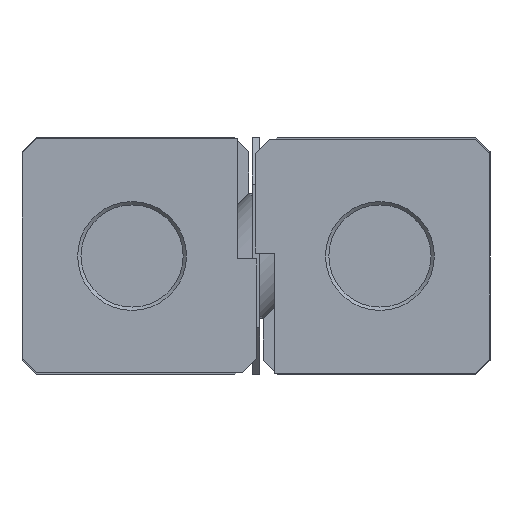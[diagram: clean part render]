
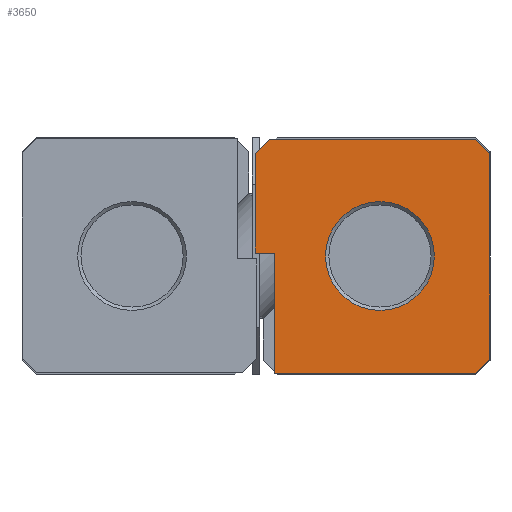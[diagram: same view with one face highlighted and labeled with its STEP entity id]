
A CAD part, left-side view. The second image highlights one B-rep face of the part: STEP entity #3650.
In plain terms, the highlighted planar face has unit normal (-1, 0, 0).
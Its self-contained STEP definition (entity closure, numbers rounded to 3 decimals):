
#126=CIRCLE('',#3908,8.25);
#338=ORIENTED_EDGE('',*,*,#1276,.T.);
#339=ORIENTED_EDGE('',*,*,#1258,.F.);
#340=ORIENTED_EDGE('',*,*,#1275,.F.);
#341=ORIENTED_EDGE('',*,*,#1273,.F.);
#342=ORIENTED_EDGE('',*,*,#1271,.F.);
#343=ORIENTED_EDGE('',*,*,#1269,.F.);
#344=ORIENTED_EDGE('',*,*,#1267,.F.);
#345=ORIENTED_EDGE('',*,*,#1265,.F.);
#346=ORIENTED_EDGE('',*,*,#1263,.F.);
#347=ORIENTED_EDGE('',*,*,#1261,.F.);
#1258=EDGE_CURVE('',#1739,#1740,#2102,.T.);
#1261=EDGE_CURVE('',#1740,#1741,#2105,.T.);
#1263=EDGE_CURVE('',#1741,#1742,#2107,.T.);
#1265=EDGE_CURVE('',#1742,#1743,#2109,.T.);
#1267=EDGE_CURVE('',#1743,#1744,#2111,.T.);
#1269=EDGE_CURVE('',#1744,#1745,#2113,.T.);
#1271=EDGE_CURVE('',#1745,#1746,#2115,.T.);
#1273=EDGE_CURVE('',#1746,#1747,#2117,.T.);
#1275=EDGE_CURVE('',#1747,#1739,#2119,.T.);
#1276=EDGE_CURVE('',#1748,#1748,#126,.T.);
#1739=VERTEX_POINT('',#5377);
#1740=VERTEX_POINT('',#5378);
#1741=VERTEX_POINT('',#5383);
#1742=VERTEX_POINT('',#5387);
#1743=VERTEX_POINT('',#5391);
#1744=VERTEX_POINT('',#5395);
#1745=VERTEX_POINT('',#5399);
#1746=VERTEX_POINT('',#5403);
#1747=VERTEX_POINT('',#5407);
#1748=VERTEX_POINT('',#5413);
#2102=LINE('',#5376,#2492);
#2105=LINE('',#5382,#2495);
#2107=LINE('',#5386,#2497);
#2109=LINE('',#5390,#2499);
#2111=LINE('',#5394,#2501);
#2113=LINE('',#5398,#2503);
#2115=LINE('',#5402,#2505);
#2117=LINE('',#5406,#2507);
#2119=LINE('',#5410,#2509);
#2492=VECTOR('',#4310,1000.);
#2495=VECTOR('',#4315,1000.);
#2497=VECTOR('',#4319,1000.);
#2499=VECTOR('',#4323,1000.);
#2501=VECTOR('',#4327,1000.);
#2503=VECTOR('',#4331,1000.);
#2505=VECTOR('',#4335,1000.);
#2507=VECTOR('',#4339,1000.);
#2509=VECTOR('',#4343,1000.);
#2854=EDGE_LOOP('',(#338));
#2855=EDGE_LOOP('',(#339,#340,#341,#342,#343,#344,#345,#346,#347));
#3174=FACE_BOUND('',#2854,.T.);
#3175=FACE_BOUND('',#2855,.T.);
#3488=PLANE('',#3907);
#3650=ADVANCED_FACE('',(#3174,#3175),#3488,.F.);
#3907=AXIS2_PLACEMENT_3D('',#5411,#4344,#4345);
#3908=AXIS2_PLACEMENT_3D('',#5412,#4346,#4347);
#4310=DIRECTION('',(0.,-1.,0.));
#4315=DIRECTION('',(0.,-0.707,-0.707));
#4319=DIRECTION('',(0.,0.,-1.));
#4323=DIRECTION('',(0.,0.707,-0.707));
#4327=DIRECTION('',(0.,1.,0.));
#4331=DIRECTION('',(0.,0.,1.));
#4335=DIRECTION('',(0.,1.,0.));
#4339=DIRECTION('',(0.,0.,1.));
#4343=DIRECTION('',(0.,-0.707,0.707));
#4344=DIRECTION('',(1.,0.,0.));
#4345=DIRECTION('',(0.,0.,-1.));
#4346=DIRECTION('',(1.,0.,0.));
#4347=DIRECTION('',(0.,0.,-1.));
#5376=CARTESIAN_POINT('',(0.,-1.98,17.7));
#5377=CARTESIAN_POINT('',(0.,-1.98,17.7));
#5378=CARTESIAN_POINT('',(0.,-33.32,17.7));
#5382=CARTESIAN_POINT('',(0.,-33.32,17.7));
#5383=CARTESIAN_POINT('',(0.,-35.45,15.57));
#5386=CARTESIAN_POINT('',(0.,-35.45,15.57));
#5387=CARTESIAN_POINT('',(0.,-35.45,-15.67));
#5390=CARTESIAN_POINT('',(0.,-35.45,-15.67));
#5391=CARTESIAN_POINT('',(0.,-33.32,-17.8));
#5394=CARTESIAN_POINT('',(0.,-33.32,-17.8));
#5395=CARTESIAN_POINT('',(0.,-2.85,-17.8));
#5398=CARTESIAN_POINT('',(0.,-2.85,-17.8));
#5399=CARTESIAN_POINT('',(0.,-2.85,0.45));
#5402=CARTESIAN_POINT('',(0.,-2.85,0.45));
#5403=CARTESIAN_POINT('',(0.,0.15,0.45));
#5406=CARTESIAN_POINT('',(0.,0.15,0.45));
#5407=CARTESIAN_POINT('',(0.,0.15,15.57));
#5410=CARTESIAN_POINT('',(0.,0.15,15.57));
#5411=CARTESIAN_POINT('',(0.,0.,0.));
#5412=CARTESIAN_POINT('',(0.,-18.8,0.));
#5413=CARTESIAN_POINT('',(0.,-18.8,-8.25));
